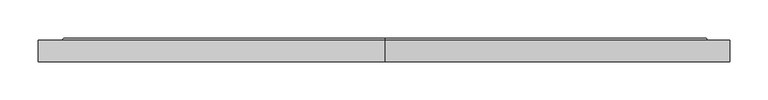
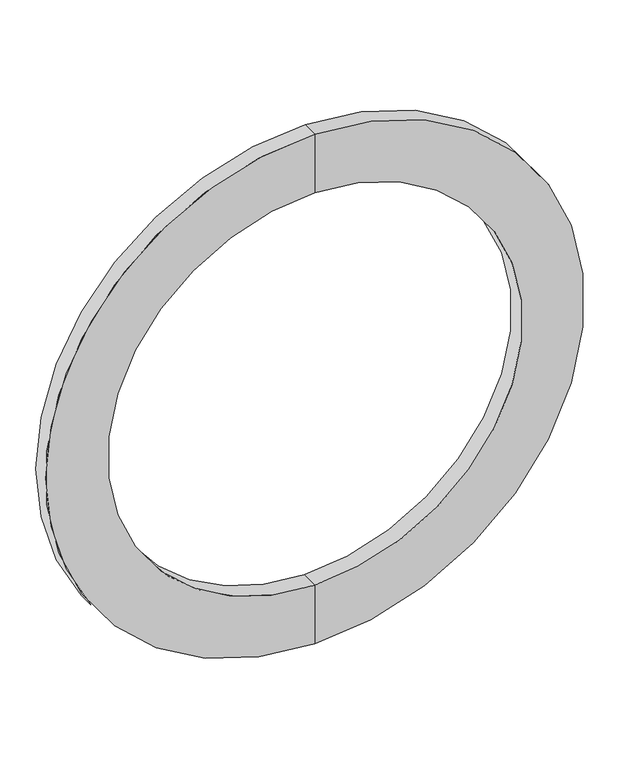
"""IFC4 building model written with IfcOpenShell, lengths in millimetres: pipe fitting geometry, Фланец : Фланец."""

from ifc_helpers import new_model, si_unit, frame, origin, place, context, project, spatial, polyline, circle_curve, source, transform, mapped, element, save
from ifc_brep_helpers import plane_surface, cylinder_surface, revolved_surface, advanced_brep


def pipe_fitting_ad0cda32(model_context):
    return source(origin(), model_context, "Body", "AdvancedBrep", [
        advanced_brep(
        [(0.0, 0.0, -455.0), (0.0, 0.0, 455.0), (0.0, 27.7, 455.0), (0.0, 27.7, -455.0), (0.0, 0.0, -350.0), (0.0, 0.0, 350.0), (0.0, 30.7, -350.0), (0.0, 30.7, 350.0), (0.0, 30.7, -423.5), (0.0, 30.7, 423.5), (0.0, 27.7, -426.0), (0.0, 27.7, 426.0)],
        [
            (0, 1, circle_curve(frame((0.0, 0.0, 0.0), z_axis=(0.0, 1.0, 0.0), x_axis=(0.0, 0.0, 1.0)), 455.0)),
            (1, 2),
            (2, 3, circle_curve(frame((0.0, 27.7, 0.0), z_axis=(0.0, -1.0, 0.0), x_axis=(0.0, 0.0, 1.0)), 455.0)),
            (3, 0),
            (1, 0, circle_curve(frame((0.0, 0.0, 0.0), z_axis=(0.0, 1.0, 0.0), x_axis=(0.0, 0.0, 1.0)), 455.0)),
            (3, 2, circle_curve(frame((0.0, 27.7, 0.0), z_axis=(0.0, -1.0, 0.0), x_axis=(0.0, 0.0, 1.0)), 455.0)),
            (4, 5, circle_curve(frame((0.0, 0.0, 0.0), z_axis=(0.0, 1.0, 0.0), x_axis=(0.0, 0.0, 1.0)), 350.0)),
            (5, 1),
            (0, 4),
            (5, 4, circle_curve(frame((0.0, 0.0, 0.0), z_axis=(0.0, 1.0, 0.0), x_axis=(0.0, 0.0, 1.0)), 350.0)),
            (6, 7, circle_curve(frame((0.0, 30.7, 0.0), z_axis=(0.0, 1.0, 0.0), x_axis=(0.0, 0.0, 1.0)), 350.0)),
            (7, 5),
            (4, 6),
            (7, 6, circle_curve(frame((0.0, 30.7, 0.0), z_axis=(0.0, 1.0, 0.0), x_axis=(0.0, 0.0, 1.0)), 350.0)),
            (8, 9, circle_curve(frame((0.0, 30.7, 0.0), z_axis=(0.0, 1.0, 0.0), x_axis=(0.0, 0.0, 1.0)), 423.5)),
            (9, 7),
            (6, 8),
            (9, 8, circle_curve(frame((0.0, 30.7, 0.0), z_axis=(0.0, 1.0, 0.0), x_axis=(0.0, 0.0, 1.0)), 423.5)),
            (10, 11, circle_curve(frame((0.0, 27.7, 0.0), z_axis=(0.0, 1.0, 0.0), x_axis=(0.0, 0.0, 1.0)), 426.0)),
            (11, 9),
            (8, 10),
            (11, 10, circle_curve(frame((0.0, 27.7, 0.0), z_axis=(0.0, 1.0, 0.0), x_axis=(0.0, 0.0, 1.0)), 426.0)),
            (2, 11),
            (10, 3),
        ],
        [
            cylinder_surface(frame((0.0, -60.0, 0.0), z_axis=(0.0, -1.0, 0.0), x_axis=(0.0, 0.0, 1.0)), 455.0),
            plane_surface(frame((0.0, 0.0, 0.0), z_axis=(0.0, -1.0, 0.0), x_axis=(0.0, 0.0, 1.0))),
            revolved_surface(polyline([(0.0, 0.0, 350.0), (0.0, 30.700000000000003, 350.0)]), (0.0, -60.0, 0.0), (0.0, -1.0, 0.0)),
            plane_surface(frame((0.0, 30.7, 0.0), z_axis=(0.0, 1.0, 0.0), x_axis=(0.0, 0.0, 1.0))),
            revolved_surface(polyline([(0.0, 30.7, 423.5), (0.0, 27.7, 426.0)]), (0.0, -60.0, 0.0), (0.0, -1.0, 0.0)),
            plane_surface(frame((0.0, 27.7, 0.0), z_axis=(0.0, 1.0, 0.0), x_axis=(0.0, 0.0, 1.0))),
        ],
        [
            (0, [[1, 2, 3, 4]]),
            (0, [[5, -4, 6, -2]]),
            (1, [[7, 8, -1, 9]]),
            (1, [[10, -9, -5, -8]]),
            (2, [[11, 12, -7, 13]]),
            (2, [[14, -13, -10, -12]]),
            (3, [[15, 16, -11, 17]]),
            (3, [[18, -17, -14, -16]]),
            (4, [[19, 20, -15, 21]]),
            (4, [[22, -21, -18, -20]]),
            (5, [[-3, 23, -19, 24]]),
            (5, [[-6, -24, -22, -23]]),
        ],
    ),
    ])


if __name__ == "__main__":
    model = new_model("IFC4")
    model_context = context("Model", 3, world=origin())
    ifc_project = project(units=[si_unit("LENGTHUNIT", "METRE", prefix="MILLI")], contexts=[model_context])
    site = spatial("IfcSite", under=ifc_project)
    building = spatial("IfcBuilding", under=site)
    placement = place(None, origin())
    pipe_fitting_shape = pipe_fitting_ad0cda32(model_context)
    element("IfcPipeFitting", 1, ObjectType="Фланец : Фланец", at=placement, inside=building, context=model_context, shape_type="MappedRepresentation", body=[
        mapped(pipe_fitting_shape, transform((0.0, 0.0, 0.0), x_axis=(1.0, 0.0, 0.0), y_axis=(0.0, 1.0, 0.0), z_axis=(0.0, 0.0, 1.0))),
    ])
    save(model, "model.ifc")
